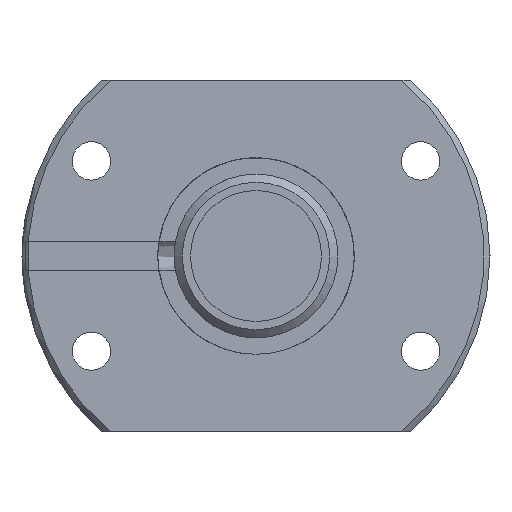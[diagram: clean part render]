
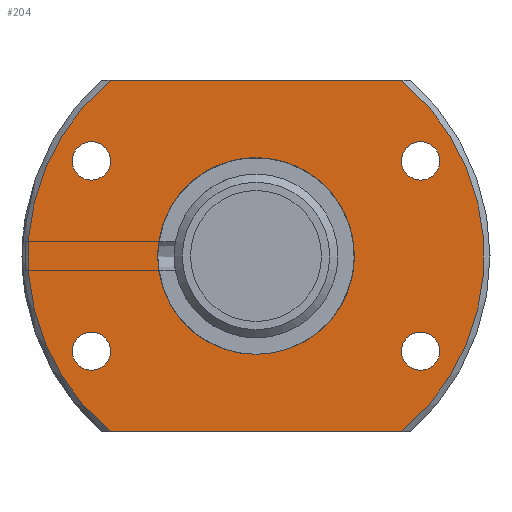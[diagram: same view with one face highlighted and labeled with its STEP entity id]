
A CAD part, left-side view. The second image highlights one B-rep face of the part: STEP entity #204.
In plain terms, the highlighted planar face has unit normal (-1, 0, 0).
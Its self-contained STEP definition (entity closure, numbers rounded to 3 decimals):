
#204 = ADVANCED_FACE( '', ( #311, #312, #313, #314, #315, #316 ), #317, .T. );
#311 = FACE_BOUND( '', #427, .T. );
#312 = FACE_OUTER_BOUND( '', #428, .T. );
#313 = FACE_BOUND( '', #429, .T. );
#314 = FACE_BOUND( '', #430, .T. );
#315 = FACE_BOUND( '', #431, .T. );
#316 = FACE_BOUND( '', #432, .T. );
#317 = PLANE( '', #433 );
#427 = EDGE_LOOP( '', ( #642 ) );
#428 = EDGE_LOOP( '', ( #643, #644, #645, #646 ) );
#429 = EDGE_LOOP( '', ( #647 ) );
#430 = EDGE_LOOP( '', ( #648 ) );
#431 = EDGE_LOOP( '', ( #649 ) );
#432 = EDGE_LOOP( '', ( #650 ) );
#433 = AXIS2_PLACEMENT_3D( '', #651, #652, #653 );
#642 = ORIENTED_EDGE( '', *, *, #718, .T. );
#643 = ORIENTED_EDGE( '', *, *, #738, .F. );
#644 = ORIENTED_EDGE( '', *, *, #703, .F. );
#645 = ORIENTED_EDGE( '', *, *, #709, .F. );
#646 = ORIENTED_EDGE( '', *, *, #739, .F. );
#647 = ORIENTED_EDGE( '', *, *, #695, .T. );
#648 = ORIENTED_EDGE( '', *, *, #697, .T. );
#649 = ORIENTED_EDGE( '', *, *, #699, .T. );
#650 = ORIENTED_EDGE( '', *, *, #701, .T. );
#651 = CARTESIAN_POINT( '', ( 0., 39., 0. ) );
#652 = DIRECTION( '', ( -1., 0., 0. ) );
#653 = DIRECTION( '', ( 0., 0., 1. ) );
#695 = EDGE_CURVE( '', #771, #771, #772, .T. );
#697 = EDGE_CURVE( '', #775, #775, #776, .T. );
#699 = EDGE_CURVE( '', #779, #779, #780, .T. );
#701 = EDGE_CURVE( '', #783, #783, #784, .T. );
#703 = EDGE_CURVE( '', #785, #788, #789, .T. );
#709 = EDGE_CURVE( '', #798, #785, #800, .T. );
#718 = EDGE_CURVE( '', #815, #815, #816, .T. );
#738 = EDGE_CURVE( '', #788, #849, #850, .T. );
#739 = EDGE_CURVE( '', #849, #798, #851, .T. );
#771 = VERTEX_POINT( '', #944 );
#772 = CIRCLE( '', #945, 3.3 );
#775 = VERTEX_POINT( '', #948 );
#776 = CIRCLE( '', #949, 3.3 );
#779 = VERTEX_POINT( '', #952 );
#780 = CIRCLE( '', #953, 3.3 );
#783 = VERTEX_POINT( '', #956 );
#784 = CIRCLE( '', #957, 3.3 );
#785 = VERTEX_POINT( '', #958 );
#788 = VERTEX_POINT( '', #964 );
#789 = CIRCLE( '', #965, 39. );
#798 = VERTEX_POINT( '', #981 );
#800 = LINE( '', #986, #987 );
#815 = VERTEX_POINT( '', #1043 );
#816 = CIRCLE( '', #1044, 16.8 );
#849 = VERTEX_POINT( '', #1116 );
#850 = LINE( '', #1117, #1118 );
#851 = CIRCLE( '', #1119, 39. );
#944 = CARTESIAN_POINT( '', ( 0., 28.146, -19.55 ) );
#945 = AXIS2_PLACEMENT_3D( '', #1166, #1167, #1168 );
#948 = CARTESIAN_POINT( '', ( 0., -28.146, -19.55 ) );
#949 = AXIS2_PLACEMENT_3D( '', #1172, #1173, #1174 );
#952 = CARTESIAN_POINT( '', ( 0., -28.146, 12.95 ) );
#953 = AXIS2_PLACEMENT_3D( '', #1178, #1179, #1180 );
#956 = CARTESIAN_POINT( '', ( 0., 28.146, 12.95 ) );
#957 = AXIS2_PLACEMENT_3D( '', #1184, #1185, #1186 );
#958 = CARTESIAN_POINT( '', ( 0., 24.92, -30. ) );
#964 = CARTESIAN_POINT( '', ( 0., 24.92, 30. ) );
#965 = AXIS2_PLACEMENT_3D( '', #1187, #1188, #1189 );
#981 = CARTESIAN_POINT( '', ( 0., -24.92, -30. ) );
#986 = CARTESIAN_POINT( '', ( 0., -40.1, -30. ) );
#987 = VECTOR( '', #1194, 1000. );
#1043 = CARTESIAN_POINT( '', ( 0., 0., -16.8 ) );
#1044 = AXIS2_PLACEMENT_3D( '', #1206, #1207, #1208 );
#1116 = CARTESIAN_POINT( '', ( 0., -24.92, 30. ) );
#1117 = CARTESIAN_POINT( '', ( 0., 40.1, 30. ) );
#1118 = VECTOR( '', #1250, 1000. );
#1119 = AXIS2_PLACEMENT_3D( '', #1251, #1252, #1253 );
#1166 = CARTESIAN_POINT( '', ( 0., 28.146, -16.25 ) );
#1167 = DIRECTION( '', ( 1., 0., 0. ) );
#1168 = DIRECTION( '', ( 0., 0., -1. ) );
#1172 = CARTESIAN_POINT( '', ( 0., -28.146, -16.25 ) );
#1173 = DIRECTION( '', ( 1., 0., 0. ) );
#1174 = DIRECTION( '', ( 0., 0., -1. ) );
#1178 = CARTESIAN_POINT( '', ( 0., -28.146, 16.25 ) );
#1179 = DIRECTION( '', ( 1., 0., 0. ) );
#1180 = DIRECTION( '', ( 0., 0., -1. ) );
#1184 = CARTESIAN_POINT( '', ( 0., 28.146, 16.25 ) );
#1185 = DIRECTION( '', ( 1., 0., 0. ) );
#1186 = DIRECTION( '', ( 0., 0., -1. ) );
#1187 = CARTESIAN_POINT( '', ( 0., 0., 0. ) );
#1188 = DIRECTION( '', ( 1., 0., 0. ) );
#1189 = DIRECTION( '', ( 0., 0., -1. ) );
#1194 = DIRECTION( '', ( 0., 1., 0. ) );
#1206 = CARTESIAN_POINT( '', ( 0., 0., 0. ) );
#1207 = DIRECTION( '', ( 1., 0., 0. ) );
#1208 = DIRECTION( '', ( 0., 0., -1. ) );
#1250 = DIRECTION( '', ( 0., -1., 0. ) );
#1251 = CARTESIAN_POINT( '', ( 0., 0., 0. ) );
#1252 = DIRECTION( '', ( 1., 0., 0. ) );
#1253 = DIRECTION( '', ( 0., 0., -1. ) );
